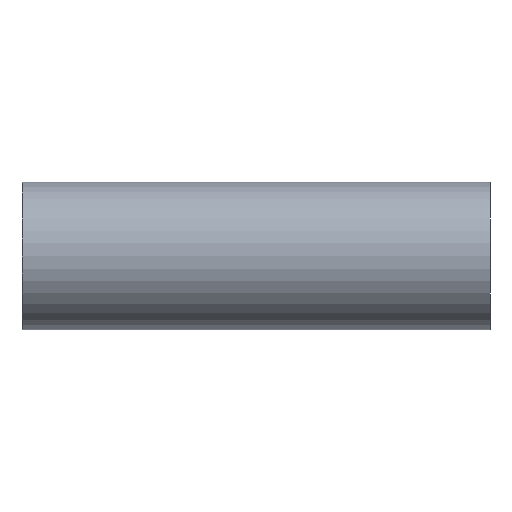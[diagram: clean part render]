
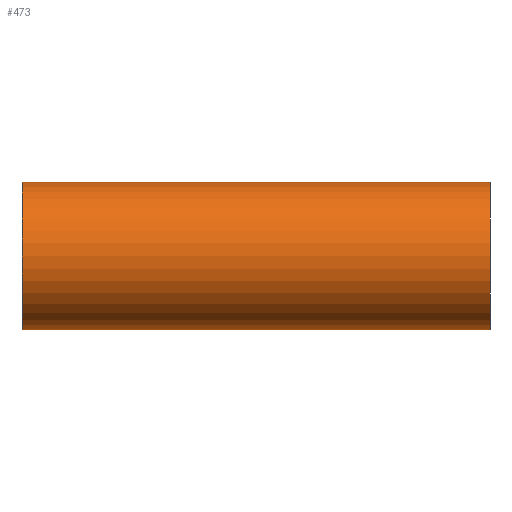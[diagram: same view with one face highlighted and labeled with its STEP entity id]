
A CAD part, front view. The second image highlights one B-rep face of the part: STEP entity #473.
In plain terms, the highlighted cylindrical face has radius 19.05 mm (diameter 38.1 mm), a partial arc.
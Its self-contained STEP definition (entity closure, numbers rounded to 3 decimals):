
#33 = CARTESIAN_POINT ( 'NONE',  ( -60.3, 0., -19.05 ) ) ;
#37 = AXIS2_PLACEMENT_3D ( 'NONE', #452, #457, #458 ) ;
#38 = ORIENTED_EDGE ( 'NONE', *, *, #374, .T. ) ;
#70 = VERTEX_POINT ( 'NONE', #247 ) ;
#73 = FACE_OUTER_BOUND ( 'NONE', #182, .T. ) ;
#76 = ORIENTED_EDGE ( 'NONE', *, *, #80, .F. ) ;
#80 = EDGE_CURVE ( 'NONE', #70, #118, #489, .T. ) ;
#94 = DIRECTION ( 'NONE',  ( 1., 0., 0. ) ) ;
#117 = EDGE_CURVE ( 'NONE', #352, #118, #149, .T. ) ;
#118 = VERTEX_POINT ( 'NONE', #251 ) ;
#125 = LINE ( 'NONE', #130, #245 ) ;
#130 = CARTESIAN_POINT ( 'NONE',  ( -60.3, 0., -19.05 ) ) ;
#149 = CIRCLE ( 'NONE', #37, 19.05 ) ;
#182 = EDGE_LOOP ( 'NONE', ( #76, #462, #38, #522 ) ) ;
#238 = VERTEX_POINT ( 'NONE', #33 ) ;
#245 = VECTOR ( 'NONE', #94, 1000. ) ;
#246 = DIRECTION ( 'NONE',  ( 0., 0., -1. ) ) ;
#247 = CARTESIAN_POINT ( 'NONE',  ( -60.3, 0., 19.05 ) ) ;
#251 = CARTESIAN_POINT ( 'NONE',  ( 60.3, 0., 19.05 ) ) ;
#253 = AXIS2_PLACEMENT_3D ( 'NONE', #335, #254, #517 ) ;
#254 = DIRECTION ( 'NONE',  ( 1., 0., 0. ) ) ;
#256 = DIRECTION ( 'NONE',  ( 1., 0., 0. ) ) ;
#260 = DIRECTION ( 'NONE',  ( 1., 0., 0. ) ) ;
#263 = CYLINDRICAL_SURFACE ( 'NONE', #253, 19.05 ) ;
#287 = CARTESIAN_POINT ( 'NONE',  ( -60.3, 0., 19.05 ) ) ;
#290 = CARTESIAN_POINT ( 'NONE',  ( -60.3, 0., 0. ) ) ;
#307 = AXIS2_PLACEMENT_3D ( 'NONE', #290, #256, #246 ) ;
#335 = CARTESIAN_POINT ( 'NONE',  ( -60.3, 0., 0. ) ) ;
#352 = VERTEX_POINT ( 'NONE', #398 ) ;
#374 = EDGE_CURVE ( 'NONE', #238, #352, #125, .T. ) ;
#398 = CARTESIAN_POINT ( 'NONE',  ( 60.3, 0., -19.05 ) ) ;
#441 = CIRCLE ( 'NONE', #307, 19.05 ) ;
#452 = CARTESIAN_POINT ( 'NONE',  ( 60.3, 0., 0. ) ) ;
#457 = DIRECTION ( 'NONE',  ( -1., 0., 0. ) ) ;
#458 = DIRECTION ( 'NONE',  ( 0., 0., -1. ) ) ;
#462 = ORIENTED_EDGE ( 'NONE', *, *, #464, .T. ) ;
#464 = EDGE_CURVE ( 'NONE', #70, #238, #441, .T. ) ;
#473 = ADVANCED_FACE ( 'NONE', ( #73 ), #263, .T. ) ;
#475 = VECTOR ( 'NONE', #260, 1000. ) ;
#489 = LINE ( 'NONE', #287, #475 ) ;
#517 = DIRECTION ( 'NONE',  ( 0., 0., -1. ) ) ;
#522 = ORIENTED_EDGE ( 'NONE', *, *, #117, .T. ) ;
